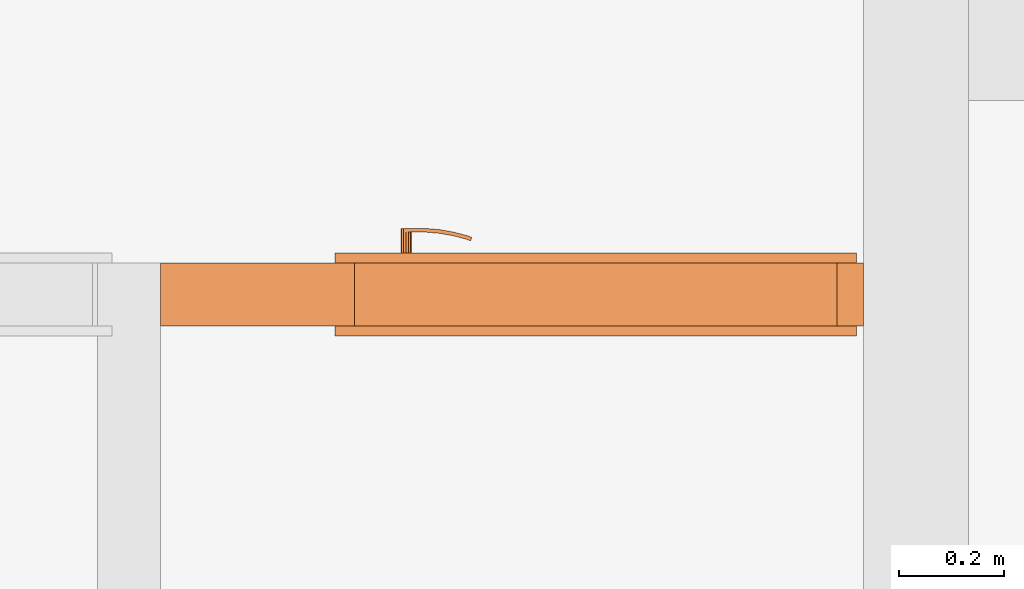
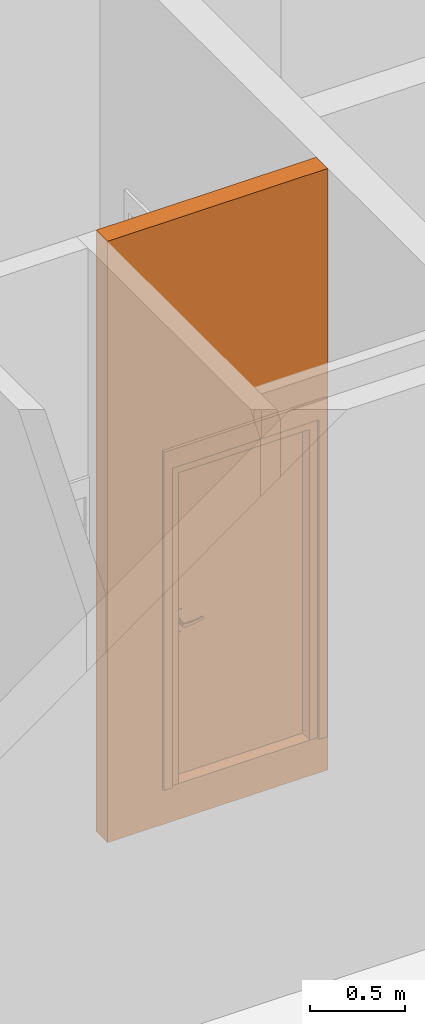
# One storey, part 13 of 46: 2 proxies, 1 opening.
"""IFC2X3 building model written with IfcOpenShell, lengths in millimetres."""

from ifc_helpers import new_model, entity, si_unit, converted_unit, derived_unit, money_unit, direction, frame, origin_with_axes, origin_2d_with_axis, place, context, subcontext, project, spatial, rectangle, extrude, open_shell, faceted_brep, surface_model, source, transform, mapped, material, type_object, element, fill, save


model = new_model("IFC2X3")

# Units and contexts
model_context = context("Model", 3, precision=0.01, world=origin_with_axes(), true_north=direction((0.34421633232, 0.938890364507)))
body_context = subcontext(model_context, "Body", "Model", "MODEL_VIEW")
ifc_project = project(units=[si_unit("LENGTHUNIT", "METRE", prefix="MILLI"), si_unit("AREAUNIT", "SQUARE_METRE"), si_unit("VOLUMEUNIT", "CUBIC_METRE"), converted_unit("PLANEANGLEUNIT", "DEGREE", entity("IfcPlaneAngleMeasure", 0.0174532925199), si_unit("PLANEANGLEUNIT", "RADIAN"), dimensions=[0, 0, 0, 0, 0, 0, 0]), si_unit("SOLIDANGLEUNIT", "STERADIAN"), money_unit("USD"), converted_unit("TIMEUNIT", "Year", entity("IfcTimeMeasure", 31556926.0), si_unit("TIMEUNIT", "SECOND"), dimensions=[0, 0, 1, 0, 0, 0, 0]), si_unit("MASSUNIT", "GRAM", prefix="KILO"), si_unit("THERMODYNAMICTEMPERATUREUNIT", "DEGREE_CELSIUS"), si_unit("LUMINOUSINTENSITYUNIT", "LUMEN"), si_unit("ENERGYUNIT", "JOULE", prefix="MEGA"), derived_unit("THERMALCONDUCTANCEUNIT", [(si_unit("POWERUNIT", "WATT"), 1), (si_unit("LENGTHUNIT", "METRE"), -1), (si_unit("THERMODYNAMICTEMPERATUREUNIT", "KELVIN"), -1)]), derived_unit("SPECIFICHEATCAPACITYUNIT", [(si_unit("ENERGYUNIT", "JOULE"), 1), (si_unit("MASSUNIT", "GRAM", prefix="KILO"), -1), (si_unit("THERMODYNAMICTEMPERATUREUNIT", "KELVIN"), -1)]), derived_unit("MASSDENSITYUNIT", [(si_unit("MASSUNIT", "GRAM", prefix="KILO"), 1), (si_unit("VOLUMEUNIT", "CUBIC_METRE"), -1)])], contexts=[model_context])

# Site, building, storey
site_placement = place(None, origin_with_axes())
site = spatial("IfcSite", under=ifc_project, at=site_placement, Name="USTRONIE MORSKIE", CompositionType="ELEMENT")
building_placement = place(site_placement, origin_with_axes())
building = spatial("IfcBuilding", under=site, at=building_placement, Name="Budynek", CompositionType="ELEMENT")
storey_placement = place(building_placement, origin_with_axes())
storey = spatial("IfcBuildingStorey", under=building, at=storey_placement, Name="PARTER", CompositionType="ELEMENT", Elevation=0.0)

# Proxies, opening
ifc_material = material(Name="Bloczki silikatowe")
building_element_proxy_type_1 = type_object("IfcBuildingElementProxyType", Name="Bloczki silikatowe 120", PredefinedType="NOTDEFINED")
proxy_1_placement = place(storey_placement, frame((379317.920919, 732331.199036, -230.0), z_axis=(0.0, 0.0, 1.0), x_axis=(-1.0, 0.0, 0.0)))
proxy_1 = element("IfcBuildingElementProxy", 1, at=proxy_1_placement, inside=storey, type_object=building_element_proxy_type_1, material=ifc_material, Name="SW-04", context=body_context, shape_type="Brep", body=[
    faceted_brep([(1440.0, 59.9999999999, 0.0), (1440.0, -59.9999999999, 0.0), (100.0, -59.9999999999, 0.0), (100.0, 59.9999999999, 0.0), (1440.0, 59.9999999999, 3870.0), (1440.0, -59.9999999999, 3870.0), (100.0, -59.9999999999, 3870.0), (100.0, 59.9999999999, 3870.0)], [[[0, 1, 2, 3]], [[1, 0, 4, 5]], [[1, 5, 6, 2]], [[7, 3, 2, 6]], [[4, 0, 3, 7]], [[5, 4, 7, 6]]]),
])
opening_placement = place(proxy_1_placement, frame((610.0, 0.0, 230.0), z_axis=(0.0, 0.0, 1.0), x_axis=(1.0, 0.0, 0.0)))
opening = element("IfcOpeningElement", 2, at=opening_placement, cuts=proxy_1, Name="Dw.4", context=body_context, shape_type="SweptSolid", body=[
    extrude(rectangle(XDim=920.0, YDim=2070.0, at=origin_2d_with_axis()), frame((0.0, -120.0, 1035.0), z_axis=(0.0, 1.0, 0.0), x_axis=(-1.0, 0.0, 0.0)), (0.0, 0.0, 1.0), 360.0),
    extrude(rectangle(XDim=994.0, YDim=2177.0, at=origin_2d_with_axis()), frame((0.0, -59.9999999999, 1088.5), z_axis=(0.0, 1.0, 0.0), x_axis=(-1.0, 0.0, 0.0)), (0.0, 0.0, -1.0), 120.0),
    extrude(rectangle(XDim=994.0, YDim=2177.0, at=origin_2d_with_axis()), frame((0.0, 60.0000000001, 1088.5), z_axis=(0.0, -1.0, 0.0), x_axis=(-1.0, 0.0, 0.0)), (0.0, 0.0, -1.0), 120.0),
])
building_element_proxy_type_2 = type_object("IfcBuildingElementProxyType", Name="Drzwi 23", PredefinedType="NOTDEFINED")
shared_shape = source(origin_with_axes(), body_context, "Body", "SurfaceModel", [
    faceted_brep([(-460.0, 0.0, 0.0), (-460.0, 5.0, 0.0), (-435.0, 5.0, 0.0), (-435.0, 0.0, 0.0), (-460.0, 0.0, 2070.0), (-460.0, 5.0, 2070.0), (-435.0, 5.0, 2045.0), (-435.0, 0.0, 2045.0)], [[[0, 1, 2, 3]], [[4, 5, 1, 0]], [[1, 5, 6, 2]], [[3, 2, 6, 7]], [[0, 3, 7, 4]], [[7, 6, 5, 4]]]),
    faceted_brep([(460.0, 0.0, 2070.0), (460.0, 5.0, 2070.0), (435.0, 5.0, 2045.0), (435.0, 0.0, 2045.0), (460.0, 0.0, 0.0), (460.0, 5.0, 0.0), (435.0, 5.0, 0.0), (435.0, 0.0, 0.0)], [[[0, 1, 2, 3]], [[4, 5, 1, 0]], [[1, 5, 6, 2]], [[3, 2, 6, 7]], [[0, 3, 7, 4]], [[7, 6, 5, 4]]]),
    faceted_brep([(-435.0, 0.0, 2045.0), (-435.0, 5.0, 2045.0), (435.0, 5.0, 2045.0), (435.0, 0.0, 2045.0), (-460.0, 0.0, 2070.0), (-460.0, 5.0, 2070.0), (460.0, 5.0, 2070.0), (460.0, 0.0, 2070.0)], [[[0, 1, 2, 3]], [[4, 5, 1, 0]], [[1, 5, 6, 2]], [[3, 2, 6, 7]], [[0, 3, 7, 4]], [[7, 6, 5, 4]]]),
    faceted_brep([(-497.0, 24.0, 0.0), (-447.0, 24.0, 0.0), (-447.0, 5.0, 0.0), (-497.0, 5.0, 0.0), (-497.0, 24.0, 2177.0), (-447.0, 24.0, 2057.0), (-447.0, 5.0, 2057.0), (-497.0, 5.0, 2177.0)], [[[0, 1, 2, 3]], [[0, 4, 5, 1]], [[1, 5, 6, 2]], [[3, 2, 6, 7]], [[4, 0, 3, 7]], [[5, 4, 7, 6]]]),
    faceted_brep([(497.0, 24.0, 2177.0), (447.0, 24.0, 2057.0), (447.0, 5.0, 2057.0), (497.0, 5.0, 2177.0), (497.0, 24.0, 0.0), (447.0, 24.0, 0.0), (447.0, 5.0, 0.0), (497.0, 5.0, 0.0)], [[[0, 1, 2, 3]], [[0, 4, 5, 1]], [[1, 5, 6, 2]], [[3, 2, 6, 7]], [[4, 0, 3, 7]], [[5, 4, 7, 6]]]),
    faceted_brep([(-497.0, 24.0, 2177.0), (-447.0, 24.0, 2057.0), (-447.0, 5.0, 2057.0), (-497.0, 5.0, 2177.0), (497.0, 24.0, 2177.0), (447.0, 24.0, 2057.0), (447.0, 5.0, 2057.0), (497.0, 5.0, 2177.0)], [[[0, 1, 2, 3]], [[0, 4, 5, 1]], [[1, 5, 6, 2]], [[3, 2, 6, 7]], [[4, 0, 3, 7]], [[5, 4, 7, 6]]]),
    faceted_brep([(-497.0, -134.0, 0.0), (-497.0, -115.0, 0.0), (-447.0, -115.0, 0.0), (-447.0, -134.0, 0.0), (-497.0, -134.0, 2177.0), (-497.0, -115.0, 2177.0), (-447.0, -115.0, 2057.0), (-447.0, -134.0, 2057.0)], [[[0, 1, 2, 3]], [[4, 5, 1, 0]], [[1, 5, 6, 2]], [[3, 2, 6, 7]], [[0, 3, 7, 4]], [[7, 6, 5, 4]]]),
    faceted_brep([(497.0, -134.0, 2177.0), (497.0, -115.0, 2177.0), (447.0, -115.0, 2057.0), (447.0, -134.0, 2057.0), (497.0, -134.0, 0.0), (497.0, -115.0, 0.0), (447.0, -115.0, 0.0), (447.0, -134.0, 0.0)], [[[0, 1, 2, 3]], [[4, 5, 1, 0]], [[1, 5, 6, 2]], [[3, 2, 6, 7]], [[0, 3, 7, 4]], [[7, 6, 5, 4]]]),
    faceted_brep([(-497.0, -134.0, 2177.0), (-497.0, -115.0, 2177.0), (-447.0, -115.0, 2057.0), (-447.0, -134.0, 2057.0), (497.0, -134.0, 2177.0), (497.0, -115.0, 2177.0), (447.0, -115.0, 2057.0), (447.0, -134.0, 2057.0)], [[[0, 1, 2, 3]], [[4, 5, 1, 0]], [[1, 5, 6, 2]], [[3, 2, 6, 7]], [[0, 3, 7, 4]], [[7, 6, 5, 4]]]),
    faceted_brep([(-400.0, -40.0, 0.0), (-400.0, -40.0, 2000.0), (-400.0, -115.0, 2000.0), (-400.0, -115.0, 0.0), (-412.0, -40.0, 2000.0), (-412.0, -40.0, 0.0), (-412.0, 0.0, 2000.0), (-460.0, 0.0, 2000.0), (-460.0, -115.0, 2000.0), (-460.0, -115.0, 0.0), (-460.0, 0.0, 0.0), (-412.0, 0.0, 0.0)], [[[0, 1, 2, 3]], [[4, 1, 0, 5]], [[4, 6, 7, 8, 2, 1]], [[3, 2, 8, 9]], [[5, 0, 3, 9, 10, 11]], [[6, 4, 5, 11]], [[6, 11, 10, 7]], [[10, 9, 8, 7]]]),
    faceted_brep([(412.0, -40.0, 2000.0), (400.0, -40.0, 2000.0), (400.0, -115.0, 2000.0), (460.0, -115.0, 2000.0), (460.0, 0.0, 2000.0), (412.0, 0.0, 2000.0), (412.0, -40.0, 0.0), (400.0, -40.0, 0.0), (400.0, -115.0, 0.0), (460.0, -115.0, 0.0), (460.0, 0.0, 0.0), (412.0, 0.0, 0.0)], [[[0, 1, 2, 3, 4, 5]], [[1, 0, 6, 7]], [[1, 7, 8, 2]], [[3, 2, 8, 9]], [[4, 3, 9, 10]], [[11, 5, 4, 10]], [[0, 5, 11, 6]], [[6, 11, 10, 9, 8, 7]]]),
    faceted_brep([(-412.0, 0.0, 2012.0), (-412.0, 0.0, 2000.0), (-460.0, 0.0, 2000.0), (-460.0, 0.0, 2070.0), (460.0, 0.0, 2070.0), (460.0, 0.0, 2000.0), (412.0, 0.0, 2000.0), (412.0, 0.0, 2012.0), (-412.0, -40.0, 2012.0), (-412.0, -40.0, 2000.0), (-400.0, -40.0, 2000.0), (-400.0, -115.0, 2000.0), (-460.0, -115.0, 2000.0), (-460.0, -115.0, 2070.0), (460.0, -115.0, 2070.0), (460.0, -115.0, 2000.0), (412.0, -40.0, 2000.0), (400.0, -115.0, 2000.0), (400.0, -40.0, 2000.0), (412.0, -40.0, 2012.0)], [[[0, 1, 2, 3, 4, 5, 6, 7]], [[1, 0, 8, 9]], [[9, 10, 11, 12, 2, 1]], [[2, 12, 13, 3]], [[3, 13, 14, 4]], [[4, 14, 15, 5]], [[16, 6, 5, 15, 17, 18]], [[7, 6, 16, 19]], [[0, 7, 19, 8]], [[16, 18, 10, 9, 8, 19]], [[10, 18, 17, 11]], [[17, 15, 14, 13, 12, 11]]]),
    faceted_brep([(-390.5, -40.0, 1060.0), (-390.5, -43.0, 1060.0), (-333.5, -43.0, 1060.0), (-333.5, -40.0, 1060.0), (-390.5, -40.0, 870.0), (-390.5, -43.0, 870.0), (-333.5, -43.0, 870.0), (-333.5, -40.0, 870.0)], [[[0, 1, 2, 3]], [[4, 5, 1, 0]], [[1, 5, 6, 2]], [[3, 2, 6, 7]], [[0, 3, 7, 4]], [[7, 6, 5, 4]]]),
    faceted_brep([(-362.0, -104.0, 990.0), (-362.0, -111.0, 990.0), (-367.0, -111.0, 991.339745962), (-367.0, -104.0, 991.339745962), (-337.0, -104.0, 990.0), (-337.0, -111.0, 990.0), (-337.0, -111.0, 1010.0), (-362.0, -111.0, 1010.0), (-367.0, -111.0, 1008.66025404), (-370.660254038, -111.0, 1005.0), (-372.0, -111.0, 1000.0), (-370.660254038, -111.0, 995.0), (-370.660254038, -104.0, 995.0), (-372.0, -104.0, 1000.0), (-370.660254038, -104.0, 1005.0), (-367.0, -104.0, 1008.66025404), (-362.0, -104.0, 1010.0), (-337.0, -104.0, 1010.0)], [[[0, 1, 2, 3]], [[4, 5, 1, 0]], [[1, 5, 6, 7, 8, 9, 10, 11, 2]], [[3, 2, 11, 12]], [[0, 3, 12, 13, 14, 15, 16, 17, 4]], [[17, 6, 5, 4]], [[16, 7, 6, 17]], [[15, 8, 7, 16]], [[14, 9, 8, 15]], [[13, 10, 9, 14]], [[12, 11, 10, 13]]]),
    surface_model("IfcShellBasedSurfaceModel", [(-337.0, -104.0, 1010.0), (-323.596090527, -111.0, 1009.60730092), (-323.901717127, -104.0, 1009.60730092), (-337.0, -111.0, 1010.0), (-296.890283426, -108.663544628, 1008.82190275), (-323.901717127, -104.0, 990.392699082), (-337.0, -104.0, 990.0), (-337.0, -111.0, 990.0), (-323.596090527, -111.0, 990.392699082), (-296.890283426, -108.663544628, 991.178097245), (-297.804837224, -101.716818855, 1008.82190275), (-297.804837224, -101.716818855, 991.178097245), (-270.489735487, -104.008415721, 991.963495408), (-270.489735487, -104.008415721, 1008.03650459), (-272.006256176, -97.1678329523, 1008.03650459), (-272.006256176, -97.1678329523, 991.963495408), (-244.59537082, -97.0700416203, 992.748893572), (-244.59537082, -97.0700416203, 1007.25110643), (-246.702316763, -90.3876628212, 1007.25110643), (-246.702316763, -90.3876628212, 992.748893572), (-236.538795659, -94.1376880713, 993.0), (-236.538795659, -94.1376880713, 1007.0), (-238.829442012, -87.5221707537, 1007.0), (-238.829442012, -87.5221707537, 993.0)], [open_shell([[[0, 1, 2]], [[0, 3, 1]], [[2, 1, 4]], [[0, 2, 5, 6]], [[3, 7, 8, 1]], [[1, 8, 9, 4]], [[2, 4, 10]], [[2, 10, 11, 5]], [[5, 7, 6]], [[5, 8, 7]], [[11, 9, 8]], [[4, 9, 12, 13]], [[10, 4, 13]], [[10, 14, 15, 11]], [[11, 8, 5]], [[15, 9, 11]], [[15, 12, 9]], [[13, 12, 16, 17]], [[10, 13, 14]], [[14, 18, 19, 15]], [[19, 12, 15]], [[19, 16, 12]], [[17, 16, 20, 21]], [[14, 13, 17]], [[14, 17, 18]], [[18, 22, 23, 19]], [[23, 16, 19]], [[23, 20, 16]], [[22, 21, 20, 23]], [[18, 17, 21]], [[18, 21, 22]]])]),
    faceted_brep([(-351.607695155, -53.0, 994.0), (-350.741669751, -43.0, 993.5), (-349.0, -43.0, 1000.0), (-350.0, -53.0, 1000.0), (-356.0, -53.0, 989.607695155), (-355.5, -43.0, 988.741669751), (-362.0, -43.0, 987.0), (-368.5, -43.0, 988.741669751), (-373.258330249, -43.0, 993.5), (-375.0, -43.0, 1000.0), (-373.258330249, -43.0, 1006.5), (-368.5, -43.0, 1011.25833025), (-362.0, -43.0, 1013.0), (-355.5, -43.0, 1011.25833025), (-350.741669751, -43.0, 1006.5), (-351.607695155, -53.0, 1006.0), (-356.0, -53.0, 1010.39230485), (-362.0, -53.0, 1012.0), (-368.0, -53.0, 1010.39230485), (-372.392304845, -53.0, 1006.0), (-374.0, -53.0, 1000.0), (-372.392304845, -53.0, 994.0), (-368.0, -53.0, 989.607695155), (-362.0, -53.0, 988.0)], [[[0, 1, 2, 3]], [[4, 5, 1, 0]], [[2, 1, 5, 6, 7, 8, 9, 10, 11, 12, 13, 14]], [[3, 2, 14, 15]], [[3, 15, 16, 17, 18, 19, 20, 21, 22, 23, 4, 0]], [[23, 6, 5, 4]], [[22, 7, 6, 23]], [[21, 8, 7, 22]], [[20, 9, 8, 21]], [[19, 10, 9, 20]], [[18, 11, 10, 19]], [[17, 12, 11, 18]], [[16, 13, 12, 17]], [[15, 14, 13, 16]]]),
    faceted_brep([(-344.679491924, -47.0, 895.0), (-342.947441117, -43.0, 894.0), (-340.0, -43.0, 905.0), (-342.0, -47.0, 905.0), (-352.0, -47.0, 887.679491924), (-351.0, -43.0, 885.947441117), (-362.0, -43.0, 883.0), (-373.0, -43.0, 885.947441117), (-381.052558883, -43.0, 894.0), (-384.0, -43.0, 905.0), (-381.052558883, -43.0, 916.0), (-373.0, -43.0, 924.052558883), (-362.0, -43.0, 927.0), (-351.0, -43.0, 924.052558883), (-342.947441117, -43.0, 916.0), (-344.679491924, -47.0, 915.0), (-352.0, -47.0, 922.320508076), (-362.0, -47.0, 925.0), (-372.0, -47.0, 922.320508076), (-379.320508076, -47.0, 915.0), (-382.0, -47.0, 905.0), (-379.320508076, -47.0, 895.0), (-372.0, -47.0, 887.679491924), (-362.0, -47.0, 885.0)], [[[0, 1, 2, 3]], [[4, 5, 1, 0]], [[2, 1, 5, 6, 7, 8, 9, 10, 11, 12, 13, 14]], [[3, 2, 14, 15]], [[3, 15, 16, 17, 18, 19, 20, 21, 22, 23, 4, 0]], [[23, 6, 5, 4]], [[22, 7, 6, 23]], [[21, 8, 7, 22]], [[20, 9, 8, 21]], [[19, 10, 9, 20]], [[18, 11, 10, 19]], [[17, 12, 11, 18]], [[16, 13, 12, 17]], [[15, 14, 13, 16]]]),
    faceted_brep([(-357.050252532, -49.0, 909.050252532), (-356.343145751, -47.0, 908.343145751), (-354.0, -47.0, 914.0), (-355.0, -49.0, 914.0), (-362.0, -49.0, 907.0), (-362.0, -47.0, 906.0), (-367.656854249, -47.0, 908.343145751), (-370.0, -47.0, 914.0), (-367.656854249, -47.0, 919.656854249), (-362.0, -47.0, 922.0), (-356.343145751, -47.0, 919.656854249), (-357.050252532, -49.0, 918.949747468), (-362.0, -49.0, 921.0), (-366.949747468, -49.0, 918.949747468), (-369.0, -49.0, 914.0), (-366.949747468, -49.0, 909.050252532)], [[[0, 1, 2, 3]], [[4, 5, 1, 0]], [[2, 1, 5, 6, 7, 8, 9, 10]], [[3, 2, 10, 11]], [[3, 11, 12, 13, 14, 15, 4, 0]], [[15, 6, 5, 4]], [[14, 7, 6, 15]], [[13, 8, 7, 14]], [[12, 9, 8, 13]], [[11, 10, 9, 12]]]),
    faceted_brep([(-362.0, -53.0, 1010.0), (-362.0, -104.0, 1010.0), (-357.0, -104.0, 1008.66025404), (-357.0, -53.0, 1008.66025404), (-367.0, -53.0, 1008.66025404), (-367.0, -104.0, 1008.66025404), (-370.660254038, -104.0, 1005.0), (-372.0, -104.0, 1000.0), (-370.660254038, -104.0, 995.0), (-367.0, -104.0, 991.339745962), (-362.0, -104.0, 990.0), (-357.0, -104.0, 991.339745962), (-353.339745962, -104.0, 995.0), (-352.0, -104.0, 1000.0), (-353.339745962, -104.0, 1005.0), (-353.339745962, -53.0, 1005.0), (-352.0, -53.0, 1000.0), (-353.339745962, -53.0, 995.0), (-357.0, -53.0, 991.339745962), (-362.0, -53.0, 990.0), (-367.0, -53.0, 991.339745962), (-370.660254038, -53.0, 995.0), (-372.0, -53.0, 1000.0), (-370.660254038, -53.0, 1005.0)], [[[0, 1, 2, 3]], [[4, 5, 1, 0]], [[1, 5, 6, 7, 8, 9, 10, 11, 12, 13, 14, 2]], [[3, 2, 14, 15]], [[0, 3, 15, 16, 17, 18, 19, 20, 21, 22, 23, 4]], [[23, 6, 5, 4]], [[22, 7, 6, 23]], [[21, 8, 7, 22]], [[20, 9, 8, 21]], [[19, 10, 9, 20]], [[18, 11, 10, 19]], [[17, 12, 11, 18]], [[16, 13, 12, 17]], [[15, 14, 13, 16]]]),
    faceted_brep([(-390.5, 0.0, 1060.0), (-333.5, 0.0, 1060.0), (-333.5, 3.0, 1060.0), (-390.5, 3.0, 1060.0), (-390.5, 0.0, 870.0), (-333.5, 0.0, 870.0), (-333.5, 3.0, 870.0), (-390.5, 3.0, 870.0)], [[[0, 1, 2, 3]], [[0, 4, 5, 1]], [[1, 5, 6, 2]], [[3, 2, 6, 7]], [[4, 0, 3, 7]], [[5, 4, 7, 6]]]),
    faceted_brep([(-362.0, 64.0, 990.0), (-367.0, 64.0, 991.339745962), (-367.0, 71.0, 991.339745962), (-362.0, 71.0, 990.0), (-337.0, 64.0, 990.0), (-337.0, 64.0, 1010.0), (-362.0, 64.0, 1010.0), (-367.0, 64.0, 1008.66025404), (-370.660254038, 64.0, 1005.0), (-372.0, 64.0, 1000.0), (-370.660254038, 64.0, 995.0), (-370.660254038, 71.0, 995.0), (-372.0, 71.0, 1000.0), (-370.660254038, 71.0, 1005.0), (-367.0, 71.0, 1008.66025404), (-362.0, 71.0, 1010.0), (-337.0, 71.0, 1010.0), (-337.0, 71.0, 990.0)], [[[0, 1, 2, 3]], [[0, 4, 5, 6, 7, 8, 9, 10, 1]], [[1, 10, 11, 2]], [[3, 2, 11, 12, 13, 14, 15, 16, 17]], [[4, 0, 3, 17]], [[5, 4, 17, 16]], [[6, 5, 16, 15]], [[7, 6, 15, 14]], [[8, 7, 14, 13]], [[9, 8, 13, 12]], [[10, 9, 12, 11]]]),
    surface_model("IfcShellBasedSurfaceModel", [(-337.0, 64.0, 1010.0), (-323.901717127, 64.0, 1009.60730092), (-323.596090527, 71.0, 1009.60730092), (-337.0, 64.0, 990.0), (-323.901717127, 64.0, 990.392699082), (-296.890283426, 68.6635446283, 1008.82190275), (-337.0, 71.0, 1010.0), (-337.0, 71.0, 990.0), (-297.804837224, 61.716818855, 991.178097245), (-297.804837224, 61.716818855, 1008.82190275), (-296.890283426, 68.6635446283, 991.178097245), (-323.596090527, 71.0, 990.392699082), (-272.006256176, 57.1678329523, 991.963495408), (-272.006256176, 57.1678329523, 1008.03650459), (-270.489735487, 64.0084157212, 1008.03650459), (-270.489735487, 64.0084157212, 991.963495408), (-246.702316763, 50.3876628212, 992.748893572), (-246.702316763, 50.3876628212, 1007.25110643), (-244.59537082, 57.0700416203, 1007.25110643), (-244.59537082, 57.0700416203, 992.748893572), (-238.829442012, 47.5221707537, 993.0), (-238.829442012, 47.5221707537, 1007.0), (-236.538795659, 54.1376880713, 1007.0), (-236.538795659, 54.1376880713, 993.0)], [open_shell([[[0, 1, 2]], [[0, 3, 4, 1]], [[1, 5, 2]], [[0, 2, 6]], [[4, 3, 7]], [[1, 4, 8, 9]], [[1, 9, 5]], [[2, 5, 10, 11]], [[6, 2, 11, 7]], [[4, 7, 11]], [[8, 4, 11]], [[9, 8, 12, 13]], [[9, 14, 5]], [[5, 14, 15, 10]], [[8, 11, 10]], [[12, 8, 10]], [[13, 12, 16, 17]], [[9, 13, 14]], [[14, 18, 19, 15]], [[12, 10, 15]], [[16, 12, 15]], [[17, 16, 20, 21]], [[13, 17, 18]], [[13, 18, 14]], [[18, 22, 23, 19]], [[16, 15, 19]], [[20, 16, 19]], [[21, 20, 23, 22]], [[17, 21, 22]], [[17, 22, 18]], [[20, 19, 23]]])]),
    faceted_brep([(-351.607695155, 13.0, 994.0), (-350.0, 13.0, 1000.0), (-349.0, 3.0, 1000.0), (-350.741669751, 3.0, 993.5), (-356.0, 13.0, 989.607695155), (-362.0, 13.0, 988.0), (-368.0, 13.0, 989.607695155), (-372.392304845, 13.0, 994.0), (-374.0, 13.0, 1000.0), (-372.392304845, 13.0, 1006.0), (-368.0, 13.0, 1010.39230485), (-362.0, 13.0, 1012.0), (-356.0, 13.0, 1010.39230485), (-351.607695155, 13.0, 1006.0), (-350.741669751, 3.0, 1006.5), (-355.5, 3.0, 1011.25833025), (-362.0, 3.0, 1013.0), (-368.5, 3.0, 1011.25833025), (-373.258330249, 3.0, 1006.5), (-375.0, 3.0, 1000.0), (-373.258330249, 3.0, 993.5), (-368.5, 3.0, 988.741669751), (-362.0, 3.0, 987.0), (-355.5, 3.0, 988.741669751)], [[[0, 1, 2, 3]], [[1, 0, 4, 5, 6, 7, 8, 9, 10, 11, 12, 13]], [[1, 13, 14, 2]], [[2, 14, 15, 16, 17, 18, 19, 20, 21, 22, 23, 3]], [[4, 0, 3, 23]], [[5, 4, 23, 22]], [[6, 5, 22, 21]], [[7, 6, 21, 20]], [[8, 7, 20, 19]], [[9, 8, 19, 18]], [[10, 9, 18, 17]], [[11, 10, 17, 16]], [[12, 11, 16, 15]], [[13, 12, 15, 14]]]),
    faceted_brep([(-344.679491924, 7.0, 895.0), (-342.0, 7.0, 905.0), (-340.0, 3.0, 905.0), (-342.947441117, 3.0, 894.0), (-352.0, 7.0, 887.679491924), (-362.0, 7.0, 885.0), (-372.0, 7.0, 887.679491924), (-379.320508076, 7.0, 895.0), (-382.0, 7.0, 905.0), (-379.320508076, 7.0, 915.0), (-372.0, 7.0, 922.320508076), (-362.0, 7.0, 925.0), (-352.0, 7.0, 922.320508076), (-344.679491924, 7.0, 915.0), (-342.947441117, 3.0, 916.0), (-351.0, 3.0, 924.052558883), (-362.0, 3.0, 927.0), (-373.0, 3.0, 924.052558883), (-381.052558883, 3.0, 916.0), (-384.0, 3.0, 905.0), (-381.052558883, 3.0, 894.0), (-373.0, 3.0, 885.947441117), (-362.0, 3.0, 883.0), (-351.0, 3.0, 885.947441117)], [[[0, 1, 2, 3]], [[1, 0, 4, 5, 6, 7, 8, 9, 10, 11, 12, 13]], [[1, 13, 14, 2]], [[2, 14, 15, 16, 17, 18, 19, 20, 21, 22, 23, 3]], [[4, 0, 3, 23]], [[5, 4, 23, 22]], [[6, 5, 22, 21]], [[7, 6, 21, 20]], [[8, 7, 20, 19]], [[9, 8, 19, 18]], [[10, 9, 18, 17]], [[11, 10, 17, 16]], [[12, 11, 16, 15]], [[13, 12, 15, 14]]]),
    faceted_brep([(-357.050252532, 9.0, 909.050252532), (-355.0, 9.0, 914.0), (-354.0, 7.0, 914.0), (-356.343145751, 7.0, 908.343145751), (-362.0, 9.0, 907.0), (-366.949747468, 9.0, 909.050252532), (-369.0, 9.0, 914.0), (-366.949747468, 9.0, 918.949747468), (-362.0, 9.0, 921.0), (-357.050252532, 9.0, 918.949747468), (-356.343145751, 7.0, 919.656854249), (-362.0, 7.0, 922.0), (-367.656854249, 7.0, 919.656854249), (-370.0, 7.0, 914.0), (-367.656854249, 7.0, 908.343145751), (-362.0, 7.0, 906.0)], [[[0, 1, 2, 3]], [[1, 0, 4, 5, 6, 7, 8, 9]], [[1, 9, 10, 2]], [[2, 10, 11, 12, 13, 14, 15, 3]], [[4, 0, 3, 15]], [[5, 4, 15, 14]], [[6, 5, 14, 13]], [[7, 6, 13, 12]], [[8, 7, 12, 11]], [[9, 8, 11, 10]]]),
    faceted_brep([(-362.0, 13.0, 1010.0), (-357.0, 13.0, 1008.66025404), (-357.0, 64.0, 1008.66025404), (-362.0, 64.0, 1010.0), (-367.0, 13.0, 1008.66025404), (-370.660254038, 13.0, 1005.0), (-372.0, 13.0, 1000.0), (-370.660254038, 13.0, 995.0), (-367.0, 13.0, 991.339745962), (-362.0, 13.0, 990.0), (-357.0, 13.0, 991.339745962), (-353.339745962, 13.0, 995.0), (-352.0, 13.0, 1000.0), (-353.339745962, 13.0, 1005.0), (-353.339745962, 64.0, 1005.0), (-352.0, 64.0, 1000.0), (-353.339745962, 64.0, 995.0), (-357.0, 64.0, 991.339745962), (-362.0, 64.0, 990.0), (-367.0, 64.0, 991.339745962), (-370.660254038, 64.0, 995.0), (-372.0, 64.0, 1000.0), (-370.660254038, 64.0, 1005.0), (-367.0, 64.0, 1008.66025404)], [[[0, 1, 2, 3]], [[0, 4, 5, 6, 7, 8, 9, 10, 11, 12, 13, 1]], [[1, 13, 14, 2]], [[3, 2, 14, 15, 16, 17, 18, 19, 20, 21, 22, 23]], [[4, 0, 3, 23]], [[5, 4, 23, 22]], [[6, 5, 22, 21]], [[7, 6, 21, 20]], [[8, 7, 20, 19]], [[9, 8, 19, 18]], [[10, 9, 18, 17]], [[11, 10, 17, 16]], [[12, 11, 16, 15]], [[13, 12, 15, 14]]]),
    faceted_brep([(412.0, 0.0, 0.0), (412.0, -40.0, 0.0), (-412.0, -40.0, 0.0), (-412.0, 0.0, 0.0), (412.0, 0.0, 2012.0), (412.0, -40.0, 2012.0), (-412.0, -40.0, 2012.0), (-412.0, 0.0, 2012.0)], [[[0, 1, 2, 3]], [[4, 5, 1, 0]], [[1, 5, 6, 2]], [[3, 2, 6, 7]], [[0, 3, 7, 4]], [[7, 6, 5, 4]]]),
])
proxy_2_placement = place(opening_placement, frame((400.0, 0.0, 0.0), z_axis=(0.0, 0.0, 1.0), x_axis=(-1.0, 0.0, 0.0)))
proxy_2 = element("IfcBuildingElementProxy", 3, at=proxy_2_placement, inside=storey, type_object=building_element_proxy_type_2, Name="Dw.4", context=body_context, shape_type="MappedRepresentation", body=[
    mapped(shared_shape, transform((400.0, 54.9999999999, 0.0))),
])
fill(opening, proxy_2)

save(model, "model.ifc")
